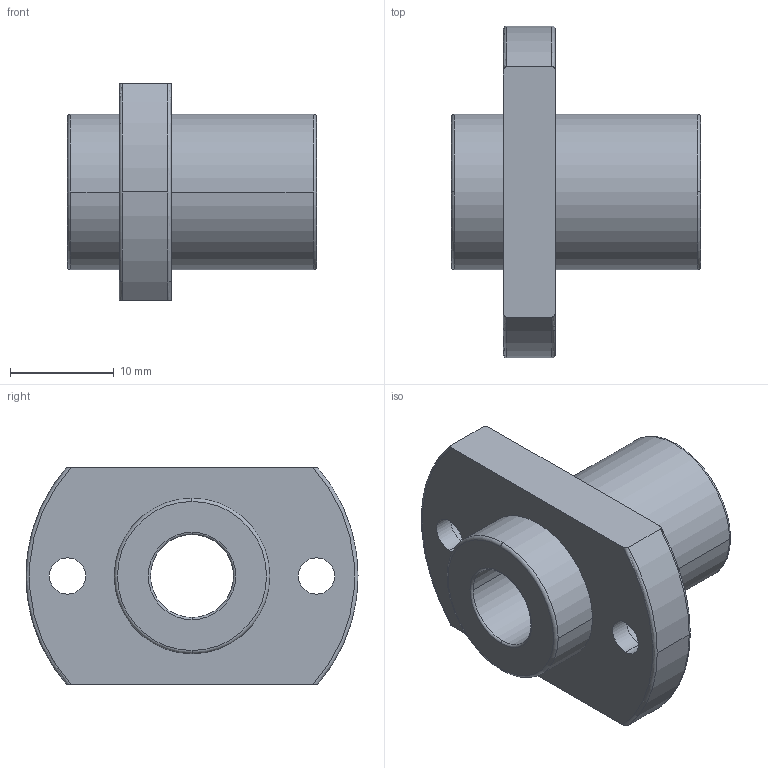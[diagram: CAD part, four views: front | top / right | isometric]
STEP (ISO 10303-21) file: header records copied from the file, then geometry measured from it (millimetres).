
FILE_DESCRIPTION(('FreeCAD Model'),'2;1');
FILE_NAME('Open CASCADE Shape Model','2021-05-03T14:19:49',('Author'),( ''),'Open CASCADE STEP processor 7.5','FreeCAD','Unknown');
FILE_SCHEMA(('AUTOMOTIVE_DESIGN { 1 0 10303 214 1 1 1 1 }'));
Length unit declared in the file: millimetre
Products named in the file (1): linear_lmhp8uu
Bounding box: 24 x 32 x 21 mm (x, y, z)
Volume: 5035 mm3; surface area: 3198.4 mm2
Topology: 1 solids, 1 shells, 38 faces, 100 edges, 68 vertices
Faces by surface type: cylinder 18, torus 12, plane 8
Entity records: 3120 total; most frequent: CARTESIAN_POINT 1083, DIRECTION 400, ORIENTED_EDGE 200, PCURVE 200, DEFINITIONAL_REPRESENTATION 200, LINE 172, VECTOR 172, AXIS2_PLACEMENT_3D 107
